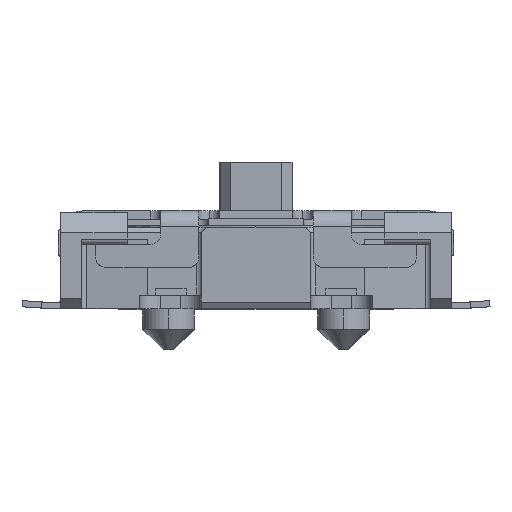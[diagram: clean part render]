
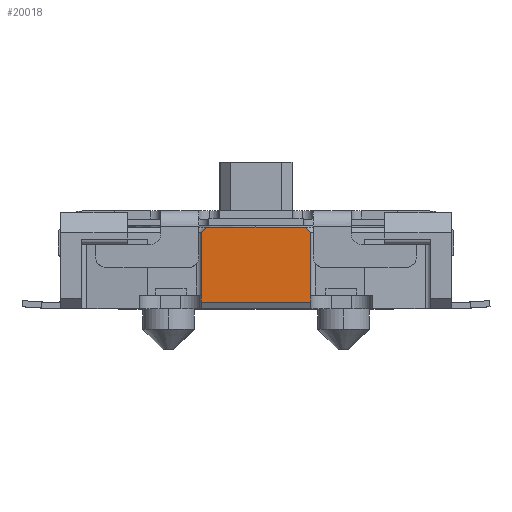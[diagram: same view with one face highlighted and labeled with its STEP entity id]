
A CAD part, top view. The second image highlights one B-rep face of the part: STEP entity #20018.
In plain terms, the highlighted planar face has unit normal (0, 0, 1).
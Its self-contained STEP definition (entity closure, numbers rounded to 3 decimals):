
#493 = VECTOR ( 'NONE', #10676, 1000. ) ;
#1270 = VECTOR ( 'NONE', #6739, 1000. ) ;
#1881 = VECTOR ( 'NONE', #6776, 1000. ) ;
#2278 = VECTOR ( 'NONE', #6755, 1000. ) ;
#2283 = VECTOR ( 'NONE', #6798, 1000. ) ;
#2355 = VECTOR ( 'NONE', #6744, 1000. ) ;
#4533 = ORIENTED_EDGE ( 'NONE', *, *, #15895, .T. ) ;
#4534 = ORIENTED_EDGE ( 'NONE', *, *, #15910, .T. ) ;
#4535 = ORIENTED_EDGE ( 'NONE', *, *, #15907, .T. ) ;
#4536 = ORIENTED_EDGE ( 'NONE', *, *, #15911, .T. ) ;
#4537 = ORIENTED_EDGE ( 'NONE', *, *, #15901, .T. ) ;
#4540 = ORIENTED_EDGE ( 'NONE', *, *, #15510, .F. ) ;
#5974 = VERTEX_POINT ( 'NONE', #17040 ) ;
#6085 = VERTEX_POINT ( 'NONE', #16929 ) ;
#6088 = VERTEX_POINT ( 'NONE', #16926 ) ;
#6089 = VERTEX_POINT ( 'NONE', #16925 ) ;
#6100 = VERTEX_POINT ( 'NONE', #16914 ) ;
#6357 = VERTEX_POINT ( 'NONE', #16657 ) ;
#6739 = DIRECTION ( 'NONE',  ( 0., 1., 0. ) ) ;
#6740 = CARTESIAN_POINT ( 'NONE',  ( 0.53, -0.4, 2.05 ) ) ;
#6741 = LINE ( 'NONE', #6740, #1270 ) ;
#6744 = DIRECTION ( 'NONE',  ( 1., 0., 0. ) ) ;
#6749 = CARTESIAN_POINT ( 'NONE',  ( -1.9, 0.062, 2.05 ) ) ;
#6755 = DIRECTION ( 'NONE',  ( 0., -1., 0. ) ) ;
#6758 = CARTESIAN_POINT ( 'NONE',  ( -0.53, -0.4, 2.05 ) ) ;
#6759 = LINE ( 'NONE', #6758, #2278 ) ;
#6770 = LINE ( 'NONE', #6749, #2355 ) ;
#6776 = DIRECTION ( 'NONE',  ( -0.707, 0.707, 0. ) ) ;
#6779 = CARTESIAN_POINT ( 'NONE',  ( 0.53, 0.74, 2.05 ) ) ;
#6780 = LINE ( 'NONE', #6779, #1881 ) ;
#6798 = DIRECTION ( 'NONE',  ( -0.707, -0.707, 0. ) ) ;
#6799 = CARTESIAN_POINT ( 'NONE',  ( -0.48, 0.79, 2.05 ) ) ;
#6804 = LINE ( 'NONE', #6799, #2283 ) ;
#10676 = DIRECTION ( 'NONE',  ( 1., 0., 0. ) ) ;
#10677 = CARTESIAN_POINT ( 'NONE',  ( 0., 0.79, 2.05 ) ) ;
#10678 = LINE ( 'NONE', #10677, #493 ) ;
#12761 = EDGE_LOOP ( 'NONE', ( #4533, #4535, #4534, #4536, #4537, #4540 ) ) ;
#13791 = DIRECTION ( 'NONE',  ( 1., 0., 0. ) ) ;
#14238 = PLANE ( 'NONE',  #18597 ) ;
#14247 = CARTESIAN_POINT ( 'NONE',  ( 0.53, 0.05, 2.05 ) ) ;
#14253 = DIRECTION ( 'NONE',  ( 0., 0., 1. ) ) ;
#15510 = EDGE_CURVE ( 'NONE', #6357, #5974, #10678, .T. ) ;
#15895 = EDGE_CURVE ( 'NONE', #6357, #6100, #6804, .T. ) ;
#15901 = EDGE_CURVE ( 'NONE', #6085, #5974, #6780, .T. ) ;
#15907 = EDGE_CURVE ( 'NONE', #6100, #6089, #6759, .T. ) ;
#15910 = EDGE_CURVE ( 'NONE', #6089, #6088, #6770, .T. ) ;
#15911 = EDGE_CURVE ( 'NONE', #6088, #6085, #6741, .T. ) ;
#16657 = CARTESIAN_POINT ( 'NONE',  ( -0.48, 0.79, 2.05 ) ) ;
#16914 = CARTESIAN_POINT ( 'NONE',  ( -0.53, 0.74, 2.05 ) ) ;
#16925 = CARTESIAN_POINT ( 'NONE',  ( -0.53, 0.062, 2.05 ) ) ;
#16926 = CARTESIAN_POINT ( 'NONE',  ( 0.53, 0.062, 2.05 ) ) ;
#16929 = CARTESIAN_POINT ( 'NONE',  ( 0.53, 0.74, 2.05 ) ) ;
#17040 = CARTESIAN_POINT ( 'NONE',  ( 0.48, 0.79, 2.05 ) ) ;
#18597 = AXIS2_PLACEMENT_3D ( 'NONE', #14247, #14253, #13791 ) ;
#18603 = FACE_OUTER_BOUND ( 'NONE', #12761, .T. ) ;
#20018 = ADVANCED_FACE ( 'NONE', ( #18603 ), #14238, .T. ) ;
